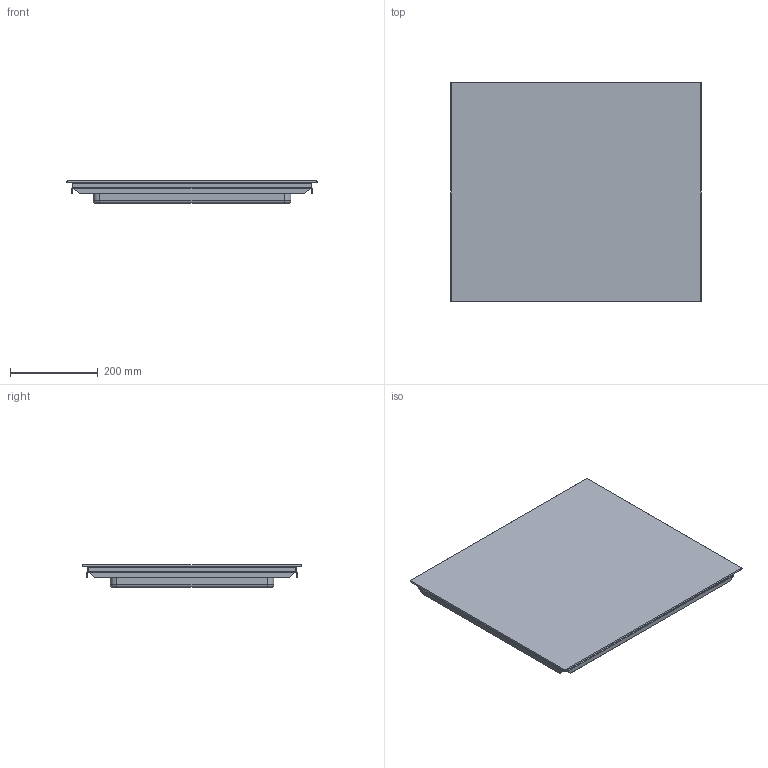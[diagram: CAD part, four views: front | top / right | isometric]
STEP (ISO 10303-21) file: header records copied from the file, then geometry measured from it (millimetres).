
FILE_DESCRIPTION(('CATIA V6 STEP','CAx-IF Rec.Pracs.--- Model Styling and Organization---1.2---2011-12-15'),'2;1');
FILE_NAME('P:\CATIA-UserDaten\3D Planungsdaten\GK\3D GK Sortiment 2017\3108600405-A.stp','2016-10-28T14:43:58+00:00',('none'),('none'),'CATIA Unofficial Packaging Version','DASSAULT SYSTEMES CATIA V6 STEP AP214','none');
FILE_SCHEMA(('AUTOMOTIVE_DESIGN { 1 0 10303 214 1 1 1 1 }'));
Length unit declared in the file: millimetre
Products named in the file (1): 1010477-00
Bounding box: 571 x 500.99 x 51 mm (x, y, z)
Volume: 7257739.5 mm3; surface area: 1629256.2 mm2
Topology: 4 solids, 4 shells, 89 faces, 224 edges, 144 vertices
Faces by surface type: plane 41, cylinder 32, cone 8, revolution 4, torus 4
Entity records: 2817 total; most frequent: CARTESIAN_POINT 719, ORIENTED_EDGE 448, DIRECTION 356, EDGE_CURVE 224, VERTEX_POINT 144, AXIS2_PLACEMENT_3D 139, VECTOR 132, LINE 132
